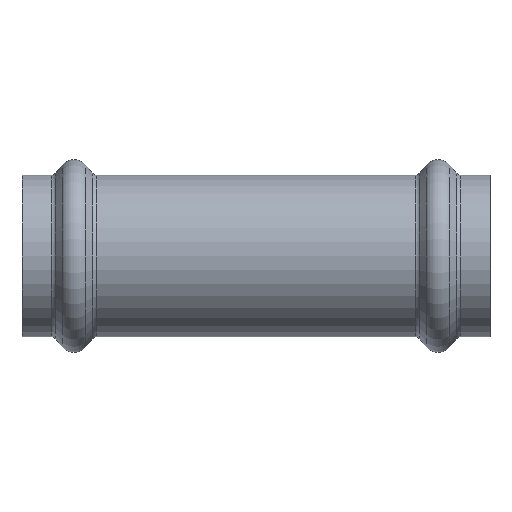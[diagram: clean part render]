
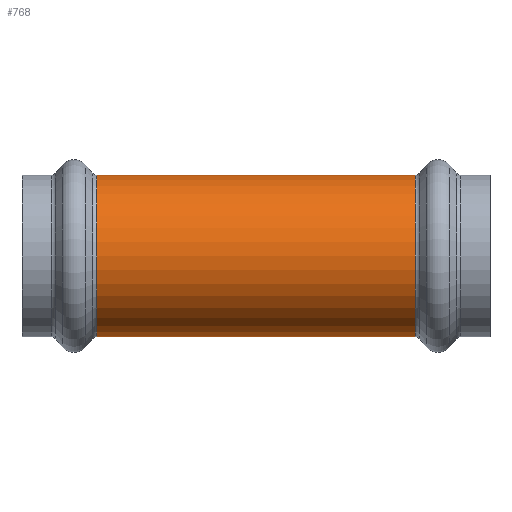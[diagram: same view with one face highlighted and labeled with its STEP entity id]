
A CAD part, front view. The second image highlights one B-rep face of the part: STEP entity #768.
In plain terms, the highlighted cylindrical face has radius 15.55 mm (diameter 31.1 mm), a partial arc.
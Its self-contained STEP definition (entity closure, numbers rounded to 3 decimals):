
#45 = ORIENTED_EDGE ( 'NONE', *, *, #902, .T. ) ;
#334 = FACE_OUTER_BOUND ( 'NONE', #2894, .T. ) ;
#397 = CARTESIAN_POINT ( 'NONE',  ( 30.629, 0., 15.55 ) ) ;
#456 = VERTEX_POINT ( 'NONE', #3364 ) ;
#522 = DIRECTION ( 'NONE',  ( 0., 0., 1. ) ) ;
#538 = DIRECTION ( 'NONE',  ( -1., 0., 0. ) ) ;
#563 = CARTESIAN_POINT ( 'NONE',  ( 30.629, 0., 0. ) ) ;
#566 = EDGE_CURVE ( 'NONE', #3007, #2872, #4731, .T. ) ;
#768 = ADVANCED_FACE ( 'NONE', ( #334 ), #3294, .T. ) ;
#817 = CARTESIAN_POINT ( 'NONE',  ( -58.611, 0., -15.55 ) ) ;
#902 = EDGE_CURVE ( 'NONE', #456, #3007, #2562, .T. ) ;
#1015 = VECTOR ( 'NONE', #2577, 1000. ) ;
#1474 = CARTESIAN_POINT ( 'NONE',  ( -58.611, 0., 0. ) ) ;
#1563 = DIRECTION ( 'NONE',  ( -1., 0., 0. ) ) ;
#1565 = DIRECTION ( 'NONE',  ( -1., 0., 0. ) ) ;
#1605 = VERTEX_POINT ( 'NONE', #3928 ) ;
#1677 = DIRECTION ( 'NONE',  ( 0., 0., 1. ) ) ;
#1842 = ORIENTED_EDGE ( 'NONE', *, *, #566, .T. ) ;
#2362 = DIRECTION ( 'NONE',  ( 0., 0., -1. ) ) ;
#2377 = DIRECTION ( 'NONE',  ( 1., 0., 0. ) ) ;
#2394 = CARTESIAN_POINT ( 'NONE',  ( -30.629, 0., 0. ) ) ;
#2562 = CIRCLE ( 'NONE', #4727, 15.55 ) ;
#2577 = DIRECTION ( 'NONE',  ( -1., 0., 0. ) ) ;
#2869 = ORIENTED_EDGE ( 'NONE', *, *, #3108, .T. ) ;
#2872 = VERTEX_POINT ( 'NONE', #3024 ) ;
#2894 = EDGE_LOOP ( 'NONE', ( #4225, #45, #1842, #2869 ) ) ;
#3007 = VERTEX_POINT ( 'NONE', #397 ) ;
#3024 = CARTESIAN_POINT ( 'NONE',  ( -30.629, 0., 15.55 ) ) ;
#3098 = CARTESIAN_POINT ( 'NONE',  ( -58.611, 0., 15.55 ) ) ;
#3108 = EDGE_CURVE ( 'NONE', #2872, #1605, #4531, .T. ) ;
#3255 = VECTOR ( 'NONE', #1565, 1000. ) ;
#3294 = CYLINDRICAL_SURFACE ( 'NONE', #4090, 15.55 ) ;
#3364 = CARTESIAN_POINT ( 'NONE',  ( 30.629, 0., -15.55 ) ) ;
#3379 = LINE ( 'NONE', #817, #3255 ) ;
#3633 = EDGE_CURVE ( 'NONE', #456, #1605, #3379, .T. ) ;
#3873 = AXIS2_PLACEMENT_3D ( 'NONE', #2394, #2377, #2362 ) ;
#3928 = CARTESIAN_POINT ( 'NONE',  ( -30.629, 0., -15.55 ) ) ;
#4090 = AXIS2_PLACEMENT_3D ( 'NONE', #1474, #1563, #1677 ) ;
#4225 = ORIENTED_EDGE ( 'NONE', *, *, #3633, .F. ) ;
#4531 = CIRCLE ( 'NONE', #3873, 15.55 ) ;
#4727 = AXIS2_PLACEMENT_3D ( 'NONE', #563, #538, #522 ) ;
#4731 = LINE ( 'NONE', #3098, #1015 ) ;
